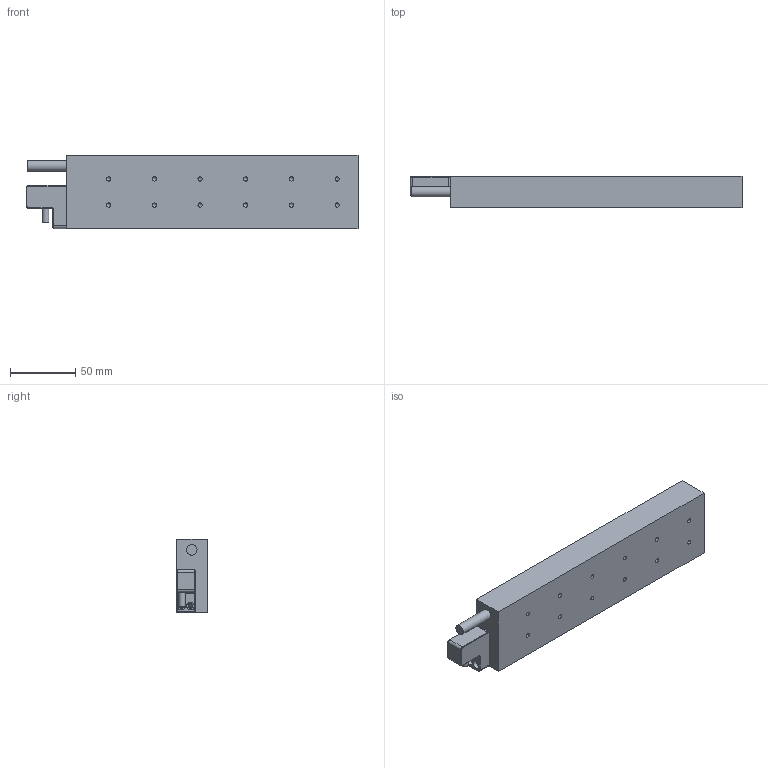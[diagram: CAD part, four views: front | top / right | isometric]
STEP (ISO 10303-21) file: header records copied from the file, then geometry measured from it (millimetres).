
FILE_DESCRIPTION( ( 'Unknown' ), '1' );
FILE_NAME( 'C:/Users/michael/Desktop/DPD56模型（业务用）/DPD56C4.stp', 'Unknown', ( 'Unknown' ), ( 'Unknown' ), 'PSStep 17.0.49', 'Unknown', ' ' );
FILE_SCHEMA( ( 'AUTOMOTIVE_DESIGN { 1 0 10303 214 1 1 1 1 }' ) );
Length unit declared in the file: millimetre
Products named in the file (3): Assem1; DPD56C2; 霍尔支架
Assembly tree (2 placements, depth 2):
  Assem1
    DPD56C2
    霍尔支架
Bounding box: 254.4 x 23.7 x 56 mm (x, y, z)
Volume: 306957.5 mm3; surface area: 43564.7 mm2
Topology: 2 solids, 3 shells, 89 faces, 212 edges, 133 vertices
Faces by surface type: plane 32, cylinder 29, cone 28
Full cylindrical faces by diameter (mm): 1.567 x2, 2.459 x2, 3.242 x12, 3.6 x2, 5 x1, 6 x2, 6.2 x1, 8 x1
Entity records: 2914 total; most frequent: DIRECTION 396, CARTESIAN_POINT 351, ORIENTED_EDGE 284, AXIS2_PLACEMENT_3D 162, EDGE_CURVE 142, EDGE_LOOP 136, VERTEX_POINT 117, FACE_OUTER_BOUND 112
